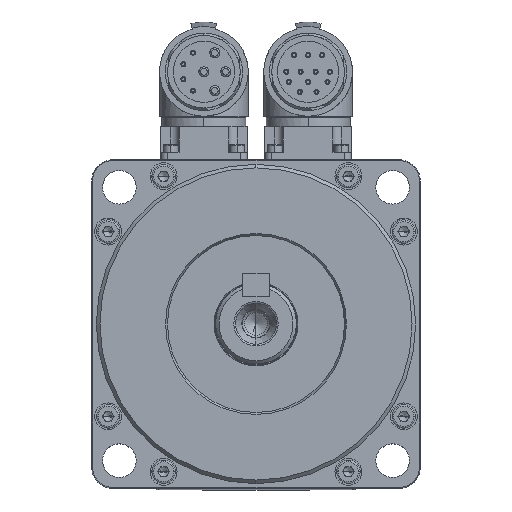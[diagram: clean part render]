
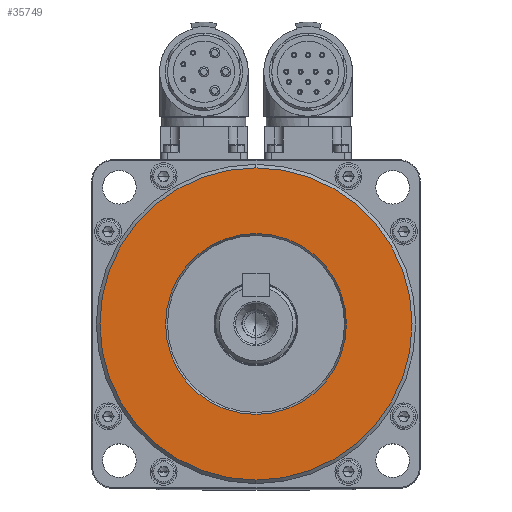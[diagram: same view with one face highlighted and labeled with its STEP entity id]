
A CAD part, top view. The second image highlights one B-rep face of the part: STEP entity #35749.
In plain terms, the highlighted planar face has unit normal (0, 0, 1).
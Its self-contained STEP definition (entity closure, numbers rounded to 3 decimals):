
#2232 = ORIENTED_EDGE ( 'NONE', *, *, #35791, .T. ) ;
#2577 = AXIS2_PLACEMENT_3D ( 'NONE', #63200, #64523, #33275 ) ;
#3206 = CIRCLE ( 'NONE', #16361, 26.908 ) ;
#3764 = AXIS2_PLACEMENT_3D ( 'NONE', #43091, #54413, #34494 ) ;
#6222 = ORIENTED_EDGE ( 'NONE', *, *, #38607, .T. ) ;
#7551 = DIRECTION ( 'NONE',  ( 0., 1., 0. ) ) ;
#8030 = EDGE_LOOP ( 'NONE', ( #2232, #6222 ) ) ;
#8318 = CIRCLE ( 'NONE', #2577, 46.433 ) ;
#8747 = CARTESIAN_POINT ( 'NONE',  ( 0., 0., 75.864 ) ) ;
#11149 = CARTESIAN_POINT ( 'NONE',  ( 0., 26.908, 75.864 ) ) ;
#14219 = DIRECTION ( 'NONE',  ( 0., 1., 0. ) ) ;
#16361 = AXIS2_PLACEMENT_3D ( 'NONE', #8747, #33690, #14219 ) ;
#17982 = ORIENTED_EDGE ( 'NONE', *, *, #22193, .T. ) ;
#22193 = EDGE_CURVE ( 'NONE', #62298, #54874, #8318, .T. ) ;
#23514 = ORIENTED_EDGE ( 'NONE', *, *, #24774, .T. ) ;
#24774 = EDGE_CURVE ( 'NONE', #54874, #62298, #30897, .T. ) ;
#25517 = CARTESIAN_POINT ( 'NONE',  ( 0., -46.433, 75.864 ) ) ;
#25756 = AXIS2_PLACEMENT_3D ( 'NONE', #30107, #29888, #44298 ) ;
#28473 = CARTESIAN_POINT ( 'NONE',  ( 0., 46.433, 75.864 ) ) ;
#29299 = EDGE_LOOP ( 'NONE', ( #23514, #17982 ) ) ;
#29330 = CIRCLE ( 'NONE', #25756, 26.908 ) ;
#29888 = DIRECTION ( 'NONE',  ( 0., 0., -1. ) ) ;
#30107 = CARTESIAN_POINT ( 'NONE',  ( 0., 0., 75.864 ) ) ;
#30897 = CIRCLE ( 'NONE', #41332, 46.433 ) ;
#33275 = DIRECTION ( 'NONE',  ( 0., 1., 0. ) ) ;
#33690 = DIRECTION ( 'NONE',  ( 0., 0., -1. ) ) ;
#34427 = VERTEX_POINT ( 'NONE', #11149 ) ;
#34494 = DIRECTION ( 'NONE',  ( 0., 1., 0. ) ) ;
#35749 = ADVANCED_FACE ( 'NONE', ( #60357, #41564 ), #37729, .F. ) ;
#35791 = EDGE_CURVE ( 'NONE', #55708, #34427, #3206, .T. ) ;
#37729 = PLANE ( 'NONE',  #3764 ) ;
#38575 = CARTESIAN_POINT ( 'NONE',  ( 0., -26.908, 75.864 ) ) ;
#38607 = EDGE_CURVE ( 'NONE', #34427, #55708, #29330, .T. ) ;
#41332 = AXIS2_PLACEMENT_3D ( 'NONE', #43872, #42321, #7551 ) ;
#41564 = FACE_BOUND ( 'NONE', #8030, .T. ) ;
#42321 = DIRECTION ( 'NONE',  ( 0., 0., 1. ) ) ;
#43091 = CARTESIAN_POINT ( 'NONE',  ( 0., 0., 75.864 ) ) ;
#43872 = CARTESIAN_POINT ( 'NONE',  ( 0., 0., 75.864 ) ) ;
#44298 = DIRECTION ( 'NONE',  ( 0., 1., 0. ) ) ;
#54413 = DIRECTION ( 'NONE',  ( 0., 0., -1. ) ) ;
#54874 = VERTEX_POINT ( 'NONE', #28473 ) ;
#55708 = VERTEX_POINT ( 'NONE', #38575 ) ;
#60357 = FACE_OUTER_BOUND ( 'NONE', #29299, .T. ) ;
#62298 = VERTEX_POINT ( 'NONE', #25517 ) ;
#63200 = CARTESIAN_POINT ( 'NONE',  ( 0., 0., 75.864 ) ) ;
#64523 = DIRECTION ( 'NONE',  ( 0., 0., 1. ) ) ;
